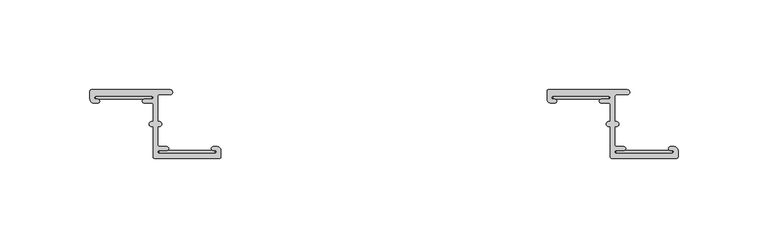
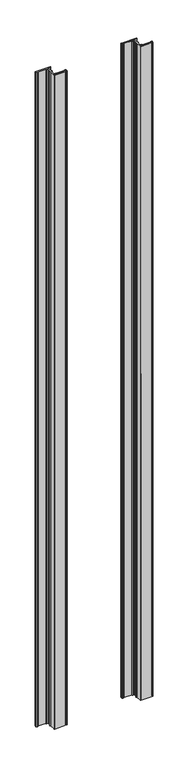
"""IFC4 building model written with IfcOpenShell, lengths in millimetres: fastener geometry."""

from ifc_helpers import new_model, si_unit, frame, origin, origin_with_axes, place, context, project, spatial, polyline, circle_curve, outline, extrude, source, transform, mapped, element, save
from ifc_brep_helpers import plane_surface, cylinder_surface, revolved_surface, advanced_brep


def fastener_dfe876d4(model_context):
    return source(origin(), model_context, "Body", "SolidModel", [
        advanced_brep(
        [(308.102, -3.556, 2032.0), (339.09, -3.556, 2032.0), (339.09, -5.2832, 2032.0), (334.899, -5.2832, 2032.0), (334.899, -7.3152, 2032.0), (339.09, -7.3152, 2032.0), (339.852, -8.0772, 2032.0), (339.852, -17.7601563, 2032.0), (339.0035567, -17.7601563, 2032.0), (339.0035567, -20.4288947, 2032.0), (339.852, -20.4288947, 2032.0), (339.852, -37.3379766, 2032.0), (340.614, -38.0999766, 2032.0), (376.8513242, -38.1, 2032.0), (377.571, -37.3379766, 2032.0), (377.571, -33.7057766, 2032.0), (375.539, -31.6737766, 2032.0), (373.253, -31.6737766, 2032.0), (373.253, -33.7057766, 2032.0), (374.269, -33.7057766, 2032.0), (374.269, -35.4329766, 2032.0), (343.281, -35.4329766, 2032.0), (343.281, -33.7057766, 2032.0), (347.472, -33.7057766, 2032.0), (347.472, -31.6737766, 2032.0), (343.281, -31.6737766, 2032.0), (342.519, -30.9117766, 2032.0), (342.519, -20.4279799, 2032.0), (343.3679007, -20.4279799, 2032.0), (343.3679007, -17.7601563, 2032.0), (342.519, -17.7601563, 2032.0), (342.519, -3.429, 2032.0), (343.281, -2.667, 2032.0), (349.377, -2.667, 2032.0), (349.377, 0.0, 2032.0), (305.562, 0.0, 2032.0), (304.8, -0.762, 2032.0), (304.8, -5.2832, 2032.0), (306.832, -7.3152, 2032.0), (309.118, -7.3152, 2032.0), (309.118, -5.2832, 2032.0), (308.102, -5.2832, 2032.0), (308.102, -3.556, 0.0), (308.102, -5.2832, 0.0), (309.118, -5.2832, 0.0), (309.118, -7.3152, 0.0), (306.832, -7.3152, 0.0), (304.8, -5.2832, 0.0), (304.8, -0.762, 0.0), (305.562, 0.0, 0.0), (349.377, 0.0, 0.0), (349.377, -2.667, 0.0), (343.281, -2.667, 0.0), (342.519, -3.429, 0.0), (342.519, -17.7601563, 0.0), (343.3679007, -17.7601563, 0.0), (343.3679007, -20.4279799, 0.0), (342.519, -20.4279799, 0.0), (342.519, -30.9117766, 0.0), (343.281, -31.6737766, 0.0), (347.472, -31.6737766, 0.0), (347.472, -33.7057766, 0.0), (343.281, -33.7057766, 0.0), (343.281, -35.4329766, 0.0), (374.269, -35.4329766, 0.0), (374.269, -33.7057766, 0.0), (373.253, -33.7057766, 0.0), (373.253, -31.6737766, 0.0), (375.539, -31.6737766, 0.0), (377.571, -33.7057766, 0.0), (377.571, -37.3379766, 0.0), (376.809, -38.0999766, 0.0), (340.7467826, -38.1, 0.0), (339.852, -37.3379766, 0.0), (339.852, -20.4288947, 0.0), (339.0035567, -20.4288947, 0.0), (339.0035567, -17.7601563, 0.0), (339.852, -17.7601563, 0.0), (339.852, -8.0772, 0.0), (339.09, -7.3152, 0.0), (334.899, -7.3152, 0.0), (334.899, -5.2832, 0.0), (339.09, -5.2832, 0.0), (339.09, -3.556, 0.0)],
        [
            (0, 1),
            (1, 2, circle_curve(frame((339.09, -4.4196, 2032.0), z_axis=(0.0, 0.0, -1.0), x_axis=(1.0, 0.0, 0.0)), 0.8636)),
            (2, 3),
            (3, 4, circle_curve(frame((334.899, -6.2992, 2032.0), z_axis=(0.0, 0.0, 1.0), x_axis=(1.0, 0.0, 0.0)), 1.016)),
            (4, 5),
            (5, 6, circle_curve(frame((339.09, -8.0772, 2032.0), z_axis=(0.0, 0.0, -1.0), x_axis=(1.0, 0.0, 0.0)), 0.762)),
            (6, 7),
            (7, 8),
            (8, 9, circle_curve(frame((339.0035567, -19.0945255, 2032.0), z_axis=(0.0, 0.0, 1.0), x_axis=(1.0, 0.0, 0.0)), 1.3343692)),
            (9, 10),
            (10, 11),
            (11, 12, circle_curve(frame((340.614, -37.3379766, 2032.0), z_axis=(0.0, 0.0, 1.0), x_axis=(1.0, 0.0, 0.0)), 0.762)),
            (12, 13),
            (13, 14, circle_curve(frame((376.809, -37.3379766, 2032.0), z_axis=(0.0, 0.0, 1.0), x_axis=(1.0, 0.0, 0.0)), 0.762)),
            (14, 15),
            (15, 16, circle_curve(frame((375.539, -33.7057766, 2032.0), z_axis=(0.0, 0.0, 1.0), x_axis=(1.0, 0.0, 0.0)), 2.032)),
            (16, 17),
            (17, 18, circle_curve(frame((373.253, -32.6897766, 2032.0), z_axis=(0.0, 0.0, 1.0), x_axis=(1.0, 0.0, 0.0)), 1.016)),
            (18, 19),
            (19, 20, circle_curve(frame((374.269, -34.5693766, 2032.0), z_axis=(0.0, 0.0, -1.0), x_axis=(1.0, 0.0, 0.0)), 0.8636)),
            (20, 21),
            (21, 22, circle_curve(frame((343.281, -34.5693766, 2032.0), z_axis=(0.0, 0.0, -1.0), x_axis=(1.0, 0.0, 0.0)), 0.8636)),
            (22, 23),
            (23, 24, circle_curve(frame((347.472, -32.6897766, 2032.0), z_axis=(0.0, 0.0, 1.0), x_axis=(1.0, 0.0, 0.0)), 1.016)),
            (24, 25),
            (25, 26, circle_curve(frame((343.281, -30.9117766, 2032.0), z_axis=(0.0, 0.0, -1.0), x_axis=(1.0, 0.0, 0.0)), 0.762)),
            (26, 27),
            (27, 28),
            (28, 29, circle_curve(frame((343.3679007, -19.0940681, 2032.0), z_axis=(0.0, 0.0, 1.0), x_axis=(1.0, 0.0, 0.0)), 1.3339118)),
            (29, 30),
            (30, 31),
            (31, 32, circle_curve(frame((343.281, -3.429, 2032.0), z_axis=(0.0, 0.0, -1.0), x_axis=(1.0, 0.0, 0.0)), 0.762)),
            (32, 33),
            (33, 34, circle_curve(frame((349.377, -1.3335, 2032.0), z_axis=(0.0, 0.0, 1.0), x_axis=(1.0, 0.0, 0.0)), 1.3335)),
            (34, 35),
            (35, 36, circle_curve(frame((305.562, -0.762, 2032.0), z_axis=(0.0, 0.0, 1.0), x_axis=(1.0, 0.0, 0.0)), 0.762)),
            (36, 37),
            (37, 38, circle_curve(frame((306.832, -5.2832, 2032.0), z_axis=(0.0, 0.0, 1.0), x_axis=(1.0, 0.0, 0.0)), 2.032)),
            (38, 39),
            (39, 40, circle_curve(frame((309.118, -6.2992, 2032.0), z_axis=(0.0, 0.0, 1.0), x_axis=(1.0, 0.0, 0.0)), 1.016)),
            (40, 41),
            (41, 0, circle_curve(frame((308.102, -4.4196, 2032.0), z_axis=(0.0, 0.0, -1.0), x_axis=(1.0, 0.0, 0.0)), 0.8636)),
            (42, 43, circle_curve(frame((308.102, -4.4196, 0.0), z_axis=(0.0, 0.0, 1.0), x_axis=(1.0, 0.0, 0.0)), 0.8636)),
            (43, 44),
            (44, 45, circle_curve(frame((309.118, -6.2992, 0.0), z_axis=(0.0, 0.0, -1.0), x_axis=(1.0, 0.0, 0.0)), 1.016)),
            (45, 46),
            (46, 47, circle_curve(frame((306.832, -5.2832, 0.0), z_axis=(0.0, 0.0, -1.0), x_axis=(1.0, 0.0, 0.0)), 2.032)),
            (47, 48),
            (48, 49, circle_curve(frame((305.562, -0.762, 0.0), z_axis=(0.0, 0.0, -1.0), x_axis=(1.0, 0.0, 0.0)), 0.762)),
            (49, 50),
            (50, 51, circle_curve(frame((349.377, -1.3335, 0.0), z_axis=(0.0, 0.0, -1.0), x_axis=(1.0, 0.0, 0.0)), 1.3335)),
            (51, 52),
            (52, 53, circle_curve(frame((343.281, -3.429, 0.0), z_axis=(0.0, 0.0, 1.0), x_axis=(1.0, 0.0, 0.0)), 0.762)),
            (53, 54),
            (54, 55),
            (55, 56, circle_curve(frame((343.3679007, -19.0940681, 0.0), z_axis=(0.0, 0.0, -1.0), x_axis=(1.0, 0.0, 0.0)), 1.3339118)),
            (56, 57),
            (57, 58),
            (58, 59, circle_curve(frame((343.281, -30.9117766, 0.0), z_axis=(0.0, 0.0, 1.0), x_axis=(1.0, 0.0, 0.0)), 0.762)),
            (59, 60),
            (60, 61, circle_curve(frame((347.472, -32.6897766, 0.0), z_axis=(0.0, 0.0, -1.0), x_axis=(1.0, 0.0, 0.0)), 1.016)),
            (61, 62),
            (62, 63, circle_curve(frame((343.281, -34.5693766, 0.0), z_axis=(0.0, 0.0, 1.0), x_axis=(1.0, 0.0, 0.0)), 0.8636)),
            (63, 64),
            (64, 65, circle_curve(frame((374.269, -34.5693766, 0.0), z_axis=(0.0, 0.0, 1.0), x_axis=(1.0, 0.0, 0.0)), 0.8636)),
            (65, 66),
            (66, 67, circle_curve(frame((373.253, -32.6897766, 0.0), z_axis=(0.0, 0.0, -1.0), x_axis=(1.0, 0.0, 0.0)), 1.016)),
            (67, 68),
            (68, 69, circle_curve(frame((375.539, -33.7057766, 0.0), z_axis=(0.0, 0.0, -1.0), x_axis=(1.0, 0.0, 0.0)), 2.032)),
            (69, 70),
            (70, 71, circle_curve(frame((376.809, -37.3379766, 0.0), z_axis=(0.0, 0.0, -1.0), x_axis=(1.0, 0.0, 0.0)), 0.762)),
            (71, 72),
            (72, 73, circle_curve(frame((340.614, -37.3379766, 0.0), z_axis=(0.0, 0.0, -1.0), x_axis=(1.0, 0.0, 0.0)), 0.762)),
            (73, 74),
            (74, 75),
            (75, 76, circle_curve(frame((339.0035567, -19.0945255, 0.0), z_axis=(0.0, 0.0, -1.0), x_axis=(1.0, 0.0, 0.0)), 1.3343692)),
            (76, 77),
            (77, 78),
            (78, 79, circle_curve(frame((339.09, -8.0772, 0.0), z_axis=(0.0, 0.0, 1.0), x_axis=(1.0, 0.0, 0.0)), 0.762)),
            (79, 80),
            (80, 81, circle_curve(frame((334.899, -6.2992, 0.0), z_axis=(0.0, 0.0, -1.0), x_axis=(1.0, 0.0, 0.0)), 1.016)),
            (81, 82),
            (82, 83, circle_curve(frame((339.09, -4.4196, 0.0), z_axis=(0.0, 0.0, 1.0), x_axis=(1.0, 0.0, 0.0)), 0.8636)),
            (83, 42),
            (0, 42),
            (83, 1),
            (82, 2),
            (81, 3),
            (80, 4),
            (79, 5),
            (78, 6),
            (77, 7),
            (76, 8),
            (75, 9),
            (74, 10),
            (73, 11),
            (72, 12),
            (71, 13),
            (70, 14),
            (69, 15),
            (68, 16),
            (67, 17),
            (66, 18),
            (65, 19),
            (64, 20),
            (63, 21),
            (62, 22),
            (61, 23),
            (60, 24),
            (59, 25),
            (58, 26),
            (57, 27),
            (56, 28),
            (55, 29),
            (54, 30),
            (53, 31),
            (52, 32),
            (51, 33),
            (50, 34),
            (49, 35),
            (48, 36),
            (47, 37),
            (46, 38),
            (45, 39),
            (44, 40),
            (43, 41),
        ],
        [
            plane_surface(frame((339.09, -3.556, 2032.0), z_axis=(0.0, 0.0, 1.0), x_axis=(1.0, 0.0, 0.0))),
            plane_surface(frame((339.09, -3.556, 0.0), z_axis=(0.0, 0.0, -1.0), x_axis=(-1.0, 0.0, 0.0))),
            plane_surface(frame((308.102, -3.556, 2032.0), z_axis=(0.0, -1.0, 0.0), x_axis=(0.0, 0.0, -1.0))),
            revolved_surface(polyline([(339.9536, -4.4196, 0.0), (339.9536, -4.4196, 2032.0)]), (339.09, -4.4196, 0.0), (0.0, 0.0, -1.0)),
            plane_surface(frame((339.09, -5.2832, 2032.0), z_axis=(0.0, 1.0, 0.0), x_axis=(0.0, 0.0, -1.0))),
            cylinder_surface(frame((334.899, -6.2992, 0.0), z_axis=(0.0, 0.0, 1.0), x_axis=(1.0, 0.0, 0.0)), 1.016),
            plane_surface(frame((334.899, -7.3152, 2032.0), z_axis=(0.0, -1.0, 0.0), x_axis=(0.0, 0.0, -1.0))),
            revolved_surface(polyline([(339.852, -8.0772, 0.0), (339.852, -8.0772, 2032.0)]), (339.09, -8.0772, 0.0), (0.0, 0.0, -1.0)),
            plane_surface(frame((339.852, -8.0772, 2032.0), z_axis=(-1.0, 0.0, 0.0), x_axis=(0.0, 0.0, -1.0))),
            plane_surface(frame((339.852, -17.7601563, 2032.0), z_axis=(0.0, 1.0, 0.0), x_axis=(0.0, 0.0, -1.0))),
            cylinder_surface(frame((339.0035567, -19.0945255, 0.0), z_axis=(0.0, 0.0, 1.0), x_axis=(1.0, 0.0, 0.0)), 1.3343692),
            plane_surface(frame((339.0035567, -20.4288947, 2032.0), z_axis=(0.0, -1.0, 0.0), x_axis=(0.0, 0.0, -1.0))),
            plane_surface(frame((339.852, -20.4288947, 2032.0), z_axis=(-1.0, 0.0, 0.0), x_axis=(0.0, 0.0, -1.0))),
            cylinder_surface(frame((340.614, -37.3379766, 0.0), z_axis=(0.0, 0.0, 1.0), x_axis=(1.0, 0.0, 0.0)), 0.762),
            plane_surface(frame((340.7467826, -38.1, 2032.0), z_axis=(0.0, -1.0, 0.0), x_axis=(0.0, 0.0, -1.0))),
            cylinder_surface(frame((376.809, -37.3379766, 0.0), z_axis=(0.0, 0.0, 1.0), x_axis=(1.0, 0.0, 0.0)), 0.762),
            plane_surface(frame((377.571, -37.3379766, 2032.0), z_axis=(1.0, 1.094695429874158e-12, 0.0), x_axis=(0.0, 0.0, -1.0))),
            cylinder_surface(frame((375.539, -33.7057766, 0.0), z_axis=(0.0, 0.0, 1.0), x_axis=(1.0, 0.0, 0.0)), 2.032),
            plane_surface(frame((375.539, -31.6737766, 2032.0), z_axis=(0.0, 1.0, 0.0), x_axis=(0.0, 0.0, -1.0))),
            cylinder_surface(frame((373.253, -32.6897766, 0.0), z_axis=(0.0, 0.0, 1.0), x_axis=(1.0, 0.0, 0.0)), 1.016),
            plane_surface(frame((373.253, -33.7057766, 2032.0), z_axis=(0.0, -1.0, 0.0), x_axis=(0.0, 0.0, -1.0))),
            revolved_surface(polyline([(375.1326, -34.5693766, 0.0), (375.1326, -34.5693766, 2032.0)]), (374.269, -34.5693766, 0.0), (0.0, 0.0, -1.0)),
            plane_surface(frame((374.269, -35.4329766, 2032.0), z_axis=(0.0, 1.0, 0.0), x_axis=(0.0, 0.0, -1.0))),
            revolved_surface(polyline([(344.1446, -34.5693766, 0.0), (344.1446, -34.5693766, 2032.0)]), (343.281, -34.5693766, 0.0), (0.0, 0.0, -1.0)),
            plane_surface(frame((343.281, -33.7057766, 2032.0), z_axis=(0.0, -1.0, 0.0), x_axis=(0.0, 0.0, -1.0))),
            cylinder_surface(frame((347.472, -32.6897766, 0.0), z_axis=(0.0, 0.0, 1.0), x_axis=(1.0, 0.0, 0.0)), 1.016),
            plane_surface(frame((347.472, -31.6737766, 2032.0), z_axis=(0.0, 1.0, 0.0), x_axis=(0.0, 0.0, -1.0))),
            revolved_surface(polyline([(344.043, -30.9117766, 0.0), (344.043, -30.9117766, 2032.0)]), (343.281, -30.9117766, 0.0), (0.0, 0.0, -1.0)),
            plane_surface(frame((342.519, -30.9117766, 2032.0), z_axis=(1.0, 0.0, 0.0), x_axis=(0.0, 0.0, -1.0))),
            plane_surface(frame((342.519, -20.4279799, 2032.0), z_axis=(0.0, -1.0, 0.0), x_axis=(0.0, 0.0, -1.0))),
            cylinder_surface(frame((343.3679007, -19.0940681, 0.0), z_axis=(0.0, 0.0, 1.0), x_axis=(1.0, 0.0, 0.0)), 1.3339118),
            plane_surface(frame((343.3679007, -17.7601563, 2032.0), z_axis=(0.0, 1.0, 0.0), x_axis=(0.0, 0.0, -1.0))),
            plane_surface(frame((342.519, -17.7601563, 2032.0), z_axis=(1.0, 0.0, 0.0), x_axis=(0.0, 0.0, -1.0))),
            revolved_surface(polyline([(344.043, -3.429, 0.0), (344.043, -3.429, 2032.0)]), (343.281, -3.429, 0.0), (0.0, 0.0, -1.0)),
            plane_surface(frame((343.281, -2.667, 2032.0), z_axis=(0.0, -1.0, 0.0), x_axis=(0.0, 0.0, -1.0))),
            cylinder_surface(frame((349.377, -1.3335, 0.0), z_axis=(0.0, 0.0, 1.0), x_axis=(1.0, 0.0, 0.0)), 1.3335),
            plane_surface(frame((349.377, 0.0, 2032.0), z_axis=(0.0, 1.0, 0.0), x_axis=(0.0, 0.0, -1.0))),
            cylinder_surface(frame((305.562, -0.762, 0.0), z_axis=(0.0, 0.0, 1.0), x_axis=(1.0, 0.0, 0.0)), 0.762),
            plane_surface(frame((304.8, -0.762, 2032.0), z_axis=(-1.0, 1.1909948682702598e-12, 0.0), x_axis=(0.0, 0.0, -1.0))),
            cylinder_surface(frame((306.832, -5.2832, 0.0), z_axis=(0.0, 0.0, 1.0), x_axis=(1.0, 0.0, 0.0)), 2.032),
            plane_surface(frame((306.832, -7.3152, 2032.0), z_axis=(0.0, -1.0, 0.0), x_axis=(0.0, 0.0, -1.0))),
            cylinder_surface(frame((309.118, -6.2992, 0.0), z_axis=(0.0, 0.0, 1.0), x_axis=(1.0, 0.0, 0.0)), 1.016),
            plane_surface(frame((309.118, -5.2832, 2032.0), z_axis=(0.0, 1.0, 0.0), x_axis=(0.0, 0.0, -1.0))),
            revolved_surface(polyline([(308.9656, -4.4196, 0.0), (308.9656, -4.4196, 2032.0)]), (308.102, -4.4196, 0.0), (0.0, 0.0, -1.0)),
        ],
        [
            (0, [[1, 2, 3, 4, 5, 6, 7, 8, 9, 10, 11, 12, 13, 14, 15, 16, 17, 18, 19, 20, 21, 22, 23, 24, 25, 26, 27, 28, 29, 30, 31, 32, 33, 34, 35, 36, 37, 38, 39, 40, 41, 42]]),
            (1, [[43, 44, 45, 46, 47, 48, 49, 50, 51, 52, 53, 54, 55, 56, 57, 58, 59, 60, 61, 62, 63, 64, 65, 66, 67, 68, 69, 70, 71, 72, 73, 74, 75, 76, 77, 78, 79, 80, 81, 82, 83, 84]]),
            (2, [[-1, 85, -84, 86]]),
            (3, [[-2, -86, -83, 87]]),
            (4, [[-3, -87, -82, 88]]),
            (5, [[-4, -88, -81, 89]]),
            (6, [[-5, -89, -80, 90]]),
            (7, [[-6, -90, -79, 91]]),
            (8, [[-7, -91, -78, 92]]),
            (9, [[-8, -92, -77, 93]]),
            (10, [[-9, -93, -76, 94]]),
            (11, [[-10, -94, -75, 95]]),
            (12, [[-11, -95, -74, 96]]),
            (13, [[-12, -96, -73, 97]]),
            (14, [[-13, -97, -72, 98]]),
            (15, [[-14, -98, -71, 99]]),
            (16, [[-15, -99, -70, 100]]),
            (17, [[-16, -100, -69, 101]]),
            (18, [[-17, -101, -68, 102]]),
            (19, [[-18, -102, -67, 103]]),
            (20, [[-19, -103, -66, 104]]),
            (21, [[-20, -104, -65, 105]]),
            (22, [[-21, -105, -64, 106]]),
            (23, [[-22, -106, -63, 107]]),
            (24, [[-23, -107, -62, 108]]),
            (25, [[-24, -108, -61, 109]]),
            (26, [[-25, -109, -60, 110]]),
            (27, [[-26, -110, -59, 111]]),
            (28, [[-27, -111, -58, 112]]),
            (29, [[-28, -112, -57, 113]]),
            (30, [[-29, -113, -56, 114]]),
            (31, [[-30, -114, -55, 115]]),
            (32, [[-31, -115, -54, 116]]),
            (33, [[-32, -116, -53, 117]]),
            (34, [[-33, -117, -52, 118]]),
            (35, [[-34, -118, -51, 119]]),
            (36, [[-35, -119, -50, 120]]),
            (37, [[-36, -120, -49, 121]]),
            (38, [[-37, -121, -48, 122]]),
            (39, [[-38, -122, -47, 123]]),
            (40, [[-39, -123, -46, 124]]),
            (41, [[-40, -124, -45, 125]]),
            (42, [[-41, -125, -44, 126]]),
            (43, [[-42, -126, -43, -85]]),
        ],
    ),
        extrude(outline(polyline([(339.09, -3.556), (339.09, -5.2832), (308.102, -5.2832), (308.102, -3.556), (339.09, -3.556)])), origin_with_axes(), (0.0, 0.0, 1.0), 2032.0),
        extrude(outline(polyline([(374.269, -33.7057766), (374.269, -35.4329766), (343.281, -35.4329766), (343.281, -33.7057766), (374.269, -33.7057766)])), origin_with_axes(), (0.0, 0.0, 1.0), 2032.0),
        advanced_brep(
        [(54.102, -3.556, 2032.0), (85.09, -3.556, 2032.0), (85.09, -5.2832, 2032.0), (80.899, -5.2832, 2032.0), (80.899, -7.3152, 2032.0), (85.09, -7.3152, 2032.0), (85.852, -8.0772, 2032.0), (85.852, -17.7601563, 2032.0), (85.0035567, -17.7601563, 2032.0), (85.0035567, -20.4288947, 2032.0), (85.852, -20.4288947, 2032.0), (85.852, -37.3379766, 2032.0), (86.614, -38.0999766, 2032.0), (122.8513242, -38.1, 2032.0), (123.571, -37.3379766, 2032.0), (123.571, -33.7057766, 2032.0), (121.539, -31.6737766, 2032.0), (119.253, -31.6737766, 2032.0), (119.253, -33.7057766, 2032.0), (120.269, -33.7057766, 2032.0), (120.269, -35.4329766, 2032.0), (89.281, -35.4329766, 2032.0), (89.281, -33.7057766, 2032.0), (93.472, -33.7057766, 2032.0), (93.472, -31.6737766, 2032.0), (89.281, -31.6737766, 2032.0), (88.519, -30.9117766, 2032.0), (88.519, -20.4279799, 2032.0), (89.3679007, -20.4279799, 2032.0), (89.3679007, -17.7601563, 2032.0), (88.519, -17.7601563, 2032.0), (88.519, -3.429, 2032.0), (89.281, -2.667, 2032.0), (95.377, -2.667, 2032.0), (95.377, 0.0, 2032.0), (51.562, 0.0, 2032.0), (50.8, -0.762, 2032.0), (50.8, -5.2832, 2032.0), (52.832, -7.3152, 2032.0), (55.118, -7.3152, 2032.0), (55.118, -5.2832, 2032.0), (54.102, -5.2832, 2032.0), (54.102, -3.556, 0.0), (54.102, -5.2832, 0.0), (55.118, -5.2832, 0.0), (55.118, -7.3152, 0.0), (52.832, -7.3152, 0.0), (50.8, -5.2832, 0.0), (50.8, -0.762, 0.0), (51.562, 0.0, 0.0), (95.377, 0.0, 0.0), (95.377, -2.667, 0.0), (89.281, -2.667, 0.0), (88.519, -3.429, 0.0), (88.519, -17.7601563, 0.0), (89.3679007, -17.7601563, 0.0), (89.3679007, -20.4279799, 0.0), (88.519, -20.4279799, 0.0), (88.519, -30.9117766, 0.0), (89.281, -31.6737766, 0.0), (93.472, -31.6737766, 0.0), (93.472, -33.7057766, 0.0), (89.281, -33.7057766, 0.0), (89.281, -35.4329766, 0.0), (120.269, -35.4329766, 0.0), (120.269, -33.7057766, 0.0), (119.253, -33.7057766, 0.0), (119.253, -31.6737766, 0.0), (121.539, -31.6737766, 0.0), (123.571, -33.7057766, 0.0), (123.571, -37.3379766, 0.0), (122.809, -38.0999766, 0.0), (86.7467826, -38.1, 0.0), (85.852, -37.3379766, 0.0), (85.852, -20.4288947, 0.0), (85.0035567, -20.4288947, 0.0), (85.0035567, -17.7601563, 0.0), (85.852, -17.7601563, 0.0), (85.852, -8.0772, 0.0), (85.09, -7.3152, 0.0), (80.899, -7.3152, 0.0), (80.899, -5.2832, 0.0), (85.09, -5.2832, 0.0), (85.09, -3.556, 0.0)],
        [
            (0, 1),
            (1, 2, circle_curve(frame((85.09, -4.4196, 2032.0), z_axis=(0.0, 0.0, -1.0), x_axis=(1.0, 0.0, 0.0)), 0.8636)),
            (2, 3),
            (3, 4, circle_curve(frame((80.899, -6.2992, 2032.0), z_axis=(0.0, 0.0, 1.0), x_axis=(1.0, 0.0, 0.0)), 1.016)),
            (4, 5),
            (5, 6, circle_curve(frame((85.09, -8.0772, 2032.0), z_axis=(0.0, 0.0, -1.0), x_axis=(1.0, 0.0, 0.0)), 0.762)),
            (6, 7),
            (7, 8),
            (8, 9, circle_curve(frame((85.0035567, -19.0945255, 2032.0), z_axis=(0.0, 0.0, 1.0), x_axis=(1.0, 0.0, 0.0)), 1.3343692)),
            (9, 10),
            (10, 11),
            (11, 12, circle_curve(frame((86.614, -37.3379766, 2032.0), z_axis=(0.0, 0.0, 1.0), x_axis=(1.0, 0.0, 0.0)), 0.762)),
            (12, 13),
            (13, 14, circle_curve(frame((122.809, -37.3379766, 2032.0), z_axis=(0.0, 0.0, 1.0), x_axis=(1.0, 0.0, 0.0)), 0.762)),
            (14, 15),
            (15, 16, circle_curve(frame((121.539, -33.7057766, 2032.0), z_axis=(0.0, 0.0, 1.0), x_axis=(1.0, 0.0, 0.0)), 2.032)),
            (16, 17),
            (17, 18, circle_curve(frame((119.253, -32.6897766, 2032.0), z_axis=(0.0, 0.0, 1.0), x_axis=(1.0, 0.0, 0.0)), 1.016)),
            (18, 19),
            (19, 20, circle_curve(frame((120.269, -34.5693766, 2032.0), z_axis=(0.0, 0.0, -1.0), x_axis=(1.0, 0.0, 0.0)), 0.8636)),
            (20, 21),
            (21, 22, circle_curve(frame((89.281, -34.5693766, 2032.0), z_axis=(0.0, 0.0, -1.0), x_axis=(1.0, 0.0, 0.0)), 0.8636)),
            (22, 23),
            (23, 24, circle_curve(frame((93.472, -32.6897766, 2032.0), z_axis=(0.0, 0.0, 1.0), x_axis=(1.0, 0.0, 0.0)), 1.016)),
            (24, 25),
            (25, 26, circle_curve(frame((89.281, -30.9117766, 2032.0), z_axis=(0.0, 0.0, -1.0), x_axis=(1.0, 0.0, 0.0)), 0.762)),
            (26, 27),
            (27, 28),
            (28, 29, circle_curve(frame((89.3679007, -19.0940681, 2032.0), z_axis=(0.0, 0.0, 1.0), x_axis=(1.0, 0.0, 0.0)), 1.3339118)),
            (29, 30),
            (30, 31),
            (31, 32, circle_curve(frame((89.281, -3.429, 2032.0), z_axis=(0.0, 0.0, -1.0), x_axis=(1.0, 0.0, 0.0)), 0.762)),
            (32, 33),
            (33, 34, circle_curve(frame((95.377, -1.3335, 2032.0), z_axis=(0.0, 0.0, 1.0), x_axis=(1.0, 0.0, 0.0)), 1.3335)),
            (34, 35),
            (35, 36, circle_curve(frame((51.562, -0.762, 2032.0), z_axis=(0.0, 0.0, 1.0), x_axis=(1.0, 0.0, 0.0)), 0.762)),
            (36, 37),
            (37, 38, circle_curve(frame((52.832, -5.2832, 2032.0), z_axis=(0.0, 0.0, 1.0), x_axis=(1.0, 0.0, 0.0)), 2.032)),
            (38, 39),
            (39, 40, circle_curve(frame((55.118, -6.2992, 2032.0), z_axis=(0.0, 0.0, 1.0), x_axis=(1.0, 0.0, 0.0)), 1.016)),
            (40, 41),
            (41, 0, circle_curve(frame((54.102, -4.4196, 2032.0), z_axis=(0.0, 0.0, -1.0), x_axis=(1.0, 0.0, 0.0)), 0.8636)),
            (42, 43, circle_curve(frame((54.102, -4.4196, 0.0), z_axis=(0.0, 0.0, 1.0), x_axis=(1.0, 0.0, 0.0)), 0.8636)),
            (43, 44),
            (44, 45, circle_curve(frame((55.118, -6.2992, 0.0), z_axis=(0.0, 0.0, -1.0), x_axis=(1.0, 0.0, 0.0)), 1.016)),
            (45, 46),
            (46, 47, circle_curve(frame((52.832, -5.2832, 0.0), z_axis=(0.0, 0.0, -1.0), x_axis=(1.0, 0.0, 0.0)), 2.032)),
            (47, 48),
            (48, 49, circle_curve(frame((51.562, -0.762, 0.0), z_axis=(0.0, 0.0, -1.0), x_axis=(1.0, 0.0, 0.0)), 0.762)),
            (49, 50),
            (50, 51, circle_curve(frame((95.377, -1.3335, 0.0), z_axis=(0.0, 0.0, -1.0), x_axis=(1.0, 0.0, 0.0)), 1.3335)),
            (51, 52),
            (52, 53, circle_curve(frame((89.281, -3.429, 0.0), z_axis=(0.0, 0.0, 1.0), x_axis=(1.0, 0.0, 0.0)), 0.762)),
            (53, 54),
            (54, 55),
            (55, 56, circle_curve(frame((89.3679007, -19.0940681, 0.0), z_axis=(0.0, 0.0, -1.0), x_axis=(1.0, 0.0, 0.0)), 1.3339118)),
            (56, 57),
            (57, 58),
            (58, 59, circle_curve(frame((89.281, -30.9117766, 0.0), z_axis=(0.0, 0.0, 1.0), x_axis=(1.0, 0.0, 0.0)), 0.762)),
            (59, 60),
            (60, 61, circle_curve(frame((93.472, -32.6897766, 0.0), z_axis=(0.0, 0.0, -1.0), x_axis=(1.0, 0.0, 0.0)), 1.016)),
            (61, 62),
            (62, 63, circle_curve(frame((89.281, -34.5693766, 0.0), z_axis=(0.0, 0.0, 1.0), x_axis=(1.0, 0.0, 0.0)), 0.8636)),
            (63, 64),
            (64, 65, circle_curve(frame((120.269, -34.5693766, 0.0), z_axis=(0.0, 0.0, 1.0), x_axis=(1.0, 0.0, 0.0)), 0.8636)),
            (65, 66),
            (66, 67, circle_curve(frame((119.253, -32.6897766, 0.0), z_axis=(0.0, 0.0, -1.0), x_axis=(1.0, 0.0, 0.0)), 1.016)),
            (67, 68),
            (68, 69, circle_curve(frame((121.539, -33.7057766, 0.0), z_axis=(0.0, 0.0, -1.0), x_axis=(1.0, 0.0, 0.0)), 2.032)),
            (69, 70),
            (70, 71, circle_curve(frame((122.809, -37.3379766, 0.0), z_axis=(0.0, 0.0, -1.0), x_axis=(1.0, 0.0, 0.0)), 0.762)),
            (71, 72),
            (72, 73, circle_curve(frame((86.614, -37.3379766, 0.0), z_axis=(0.0, 0.0, -1.0), x_axis=(1.0, 0.0, 0.0)), 0.762)),
            (73, 74),
            (74, 75),
            (75, 76, circle_curve(frame((85.0035567, -19.0945255, 0.0), z_axis=(0.0, 0.0, -1.0), x_axis=(1.0, 0.0, 0.0)), 1.3343692)),
            (76, 77),
            (77, 78),
            (78, 79, circle_curve(frame((85.09, -8.0772, 0.0), z_axis=(0.0, 0.0, 1.0), x_axis=(1.0, 0.0, 0.0)), 0.762)),
            (79, 80),
            (80, 81, circle_curve(frame((80.899, -6.2992, 0.0), z_axis=(0.0, 0.0, -1.0), x_axis=(1.0, 0.0, 0.0)), 1.016)),
            (81, 82),
            (82, 83, circle_curve(frame((85.09, -4.4196, 0.0), z_axis=(0.0, 0.0, 1.0), x_axis=(1.0, 0.0, 0.0)), 0.8636)),
            (83, 42),
            (0, 42),
            (83, 1),
            (82, 2),
            (81, 3),
            (80, 4),
            (79, 5),
            (78, 6),
            (77, 7),
            (76, 8),
            (75, 9),
            (74, 10),
            (73, 11),
            (72, 12),
            (71, 13),
            (70, 14),
            (69, 15),
            (68, 16),
            (67, 17),
            (66, 18),
            (65, 19),
            (64, 20),
            (63, 21),
            (62, 22),
            (61, 23),
            (60, 24),
            (59, 25),
            (58, 26),
            (57, 27),
            (56, 28),
            (55, 29),
            (54, 30),
            (53, 31),
            (52, 32),
            (51, 33),
            (50, 34),
            (49, 35),
            (48, 36),
            (47, 37),
            (46, 38),
            (45, 39),
            (44, 40),
            (43, 41),
        ],
        [
            plane_surface(frame((85.09, -3.556, 2032.0), z_axis=(0.0, 0.0, 1.0), x_axis=(1.0, 0.0, 0.0))),
            plane_surface(frame((85.09, -3.556, 0.0), z_axis=(0.0, 0.0, -1.0), x_axis=(-1.0, 0.0, 0.0))),
            plane_surface(frame((54.102, -3.556, 2032.0), z_axis=(0.0, -1.0, 0.0), x_axis=(0.0, 0.0, -1.0))),
            revolved_surface(polyline([(85.95360000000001, -4.4196, 0.0), (85.95360000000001, -4.4196, 2032.0)]), (85.09, -4.4196, 0.0), (0.0, 0.0, -1.0)),
            plane_surface(frame((85.09, -5.2832, 2032.0), z_axis=(0.0, 1.0, 0.0), x_axis=(0.0, 0.0, -1.0))),
            cylinder_surface(frame((80.899, -6.2992, 0.0), z_axis=(0.0, 0.0, 1.0), x_axis=(1.0, 0.0, 0.0)), 1.016),
            plane_surface(frame((80.899, -7.3152, 2032.0), z_axis=(0.0, -1.0, 0.0), x_axis=(0.0, 0.0, -1.0))),
            revolved_surface(polyline([(85.852, -8.0772, 0.0), (85.852, -8.0772, 2032.0)]), (85.09, -8.0772, 0.0), (0.0, 0.0, -1.0)),
            plane_surface(frame((85.852, -8.0772, 2032.0), z_axis=(-1.0, 0.0, 0.0), x_axis=(0.0, 0.0, -1.0))),
            plane_surface(frame((85.852, -17.7601563, 2032.0), z_axis=(0.0, 1.0, 0.0), x_axis=(0.0, 0.0, -1.0))),
            cylinder_surface(frame((85.0035567, -19.0945255, 0.0), z_axis=(0.0, 0.0, 1.0), x_axis=(1.0, 0.0, 0.0)), 1.3343692),
            plane_surface(frame((85.0035567, -20.4288947, 2032.0), z_axis=(0.0, -1.0, 0.0), x_axis=(0.0, 0.0, -1.0))),
            plane_surface(frame((85.852, -20.4288947, 2032.0), z_axis=(-1.0, 0.0, 0.0), x_axis=(0.0, 0.0, -1.0))),
            cylinder_surface(frame((86.614, -37.3379766, 0.0), z_axis=(0.0, 0.0, 1.0), x_axis=(1.0, 0.0, 0.0)), 0.762),
            plane_surface(frame((86.7467826, -38.1, 2032.0), z_axis=(0.0, -1.0, 0.0), x_axis=(0.0, 0.0, -1.0))),
            cylinder_surface(frame((122.809, -37.3379766, 0.0), z_axis=(0.0, 0.0, 1.0), x_axis=(1.0, 0.0, 0.0)), 0.762),
            plane_surface(frame((123.571, -37.3379766, 2032.0), z_axis=(1.0, 1.094695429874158e-12, 0.0), x_axis=(0.0, 0.0, -1.0))),
            cylinder_surface(frame((121.539, -33.7057766, 0.0), z_axis=(0.0, 0.0, 1.0), x_axis=(1.0, 0.0, 0.0)), 2.032),
            plane_surface(frame((121.539, -31.6737766, 2032.0), z_axis=(0.0, 1.0, 0.0), x_axis=(0.0, 0.0, -1.0))),
            cylinder_surface(frame((119.253, -32.6897766, 0.0), z_axis=(0.0, 0.0, 1.0), x_axis=(1.0, 0.0, 0.0)), 1.016),
            plane_surface(frame((119.253, -33.7057766, 2032.0), z_axis=(0.0, -1.0, 0.0), x_axis=(0.0, 0.0, -1.0))),
            revolved_surface(polyline([(121.13260000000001, -34.5693766, 0.0), (121.13260000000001, -34.5693766, 2032.0)]), (120.269, -34.5693766, 0.0), (0.0, 0.0, -1.0)),
            plane_surface(frame((120.269, -35.4329766, 2032.0), z_axis=(0.0, 1.0, 0.0), x_axis=(0.0, 0.0, -1.0))),
            revolved_surface(polyline([(90.14460000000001, -34.5693766, 0.0), (90.14460000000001, -34.5693766, 2032.0)]), (89.281, -34.5693766, 0.0), (0.0, 0.0, -1.0)),
            plane_surface(frame((89.281, -33.7057766, 2032.0), z_axis=(0.0, -1.0, 0.0), x_axis=(0.0, 0.0, -1.0))),
            cylinder_surface(frame((93.472, -32.6897766, 0.0), z_axis=(0.0, 0.0, 1.0), x_axis=(1.0, 0.0, 0.0)), 1.016),
            plane_surface(frame((93.472, -31.6737766, 2032.0), z_axis=(0.0, 1.0, 0.0), x_axis=(0.0, 0.0, -1.0))),
            revolved_surface(polyline([(90.043, -30.9117766, 0.0), (90.043, -30.9117766, 2032.0)]), (89.281, -30.9117766, 0.0), (0.0, 0.0, -1.0)),
            plane_surface(frame((88.519, -30.9117766, 2032.0), z_axis=(1.0, 0.0, 0.0), x_axis=(0.0, 0.0, -1.0))),
            plane_surface(frame((88.519, -20.4279799, 2032.0), z_axis=(0.0, -1.0, 0.0), x_axis=(0.0, 0.0, -1.0))),
            cylinder_surface(frame((89.3679007, -19.0940681, 0.0), z_axis=(0.0, 0.0, 1.0), x_axis=(1.0, 0.0, 0.0)), 1.3339118),
            plane_surface(frame((89.3679007, -17.7601563, 2032.0), z_axis=(0.0, 1.0, 0.0), x_axis=(0.0, 0.0, -1.0))),
            plane_surface(frame((88.519, -17.7601563, 2032.0), z_axis=(1.0, 0.0, 0.0), x_axis=(0.0, 0.0, -1.0))),
            revolved_surface(polyline([(90.043, -3.429, 0.0), (90.043, -3.429, 2032.0)]), (89.281, -3.429, 0.0), (0.0, 0.0, -1.0)),
            plane_surface(frame((89.281, -2.667, 2032.0), z_axis=(0.0, -1.0, 0.0), x_axis=(0.0, 0.0, -1.0))),
            cylinder_surface(frame((95.377, -1.3335, 0.0), z_axis=(0.0, 0.0, 1.0), x_axis=(1.0, 0.0, 0.0)), 1.3335),
            plane_surface(frame((95.377, 0.0, 2032.0), z_axis=(0.0, 1.0, 0.0), x_axis=(0.0, 0.0, -1.0))),
            cylinder_surface(frame((51.562, -0.762, 0.0), z_axis=(0.0, 0.0, 1.0), x_axis=(1.0, 0.0, 0.0)), 0.762),
            plane_surface(frame((50.8, -0.762, 2032.0), z_axis=(-1.0, 1.1909948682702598e-12, 0.0), x_axis=(0.0, 0.0, -1.0))),
            cylinder_surface(frame((52.832, -5.2832, 0.0), z_axis=(0.0, 0.0, 1.0), x_axis=(1.0, 0.0, 0.0)), 2.032),
            plane_surface(frame((52.832, -7.3152, 2032.0), z_axis=(0.0, -1.0, 0.0), x_axis=(0.0, 0.0, -1.0))),
            cylinder_surface(frame((55.118, -6.2992, 0.0), z_axis=(0.0, 0.0, 1.0), x_axis=(1.0, 0.0, 0.0)), 1.016),
            plane_surface(frame((55.118, -5.2832, 2032.0), z_axis=(0.0, 1.0, 0.0), x_axis=(0.0, 0.0, -1.0))),
            revolved_surface(polyline([(54.965599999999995, -4.4196, 0.0), (54.965599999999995, -4.4196, 2032.0)]), (54.102, -4.4196, 0.0), (0.0, 0.0, -1.0)),
        ],
        [
            (0, [[1, 2, 3, 4, 5, 6, 7, 8, 9, 10, 11, 12, 13, 14, 15, 16, 17, 18, 19, 20, 21, 22, 23, 24, 25, 26, 27, 28, 29, 30, 31, 32, 33, 34, 35, 36, 37, 38, 39, 40, 41, 42]]),
            (1, [[43, 44, 45, 46, 47, 48, 49, 50, 51, 52, 53, 54, 55, 56, 57, 58, 59, 60, 61, 62, 63, 64, 65, 66, 67, 68, 69, 70, 71, 72, 73, 74, 75, 76, 77, 78, 79, 80, 81, 82, 83, 84]]),
            (2, [[-1, 85, -84, 86]]),
            (3, [[-2, -86, -83, 87]]),
            (4, [[-3, -87, -82, 88]]),
            (5, [[-4, -88, -81, 89]]),
            (6, [[-5, -89, -80, 90]]),
            (7, [[-6, -90, -79, 91]]),
            (8, [[-7, -91, -78, 92]]),
            (9, [[-8, -92, -77, 93]]),
            (10, [[-9, -93, -76, 94]]),
            (11, [[-10, -94, -75, 95]]),
            (12, [[-11, -95, -74, 96]]),
            (13, [[-12, -96, -73, 97]]),
            (14, [[-13, -97, -72, 98]]),
            (15, [[-14, -98, -71, 99]]),
            (16, [[-15, -99, -70, 100]]),
            (17, [[-16, -100, -69, 101]]),
            (18, [[-17, -101, -68, 102]]),
            (19, [[-18, -102, -67, 103]]),
            (20, [[-19, -103, -66, 104]]),
            (21, [[-20, -104, -65, 105]]),
            (22, [[-21, -105, -64, 106]]),
            (23, [[-22, -106, -63, 107]]),
            (24, [[-23, -107, -62, 108]]),
            (25, [[-24, -108, -61, 109]]),
            (26, [[-25, -109, -60, 110]]),
            (27, [[-26, -110, -59, 111]]),
            (28, [[-27, -111, -58, 112]]),
            (29, [[-28, -112, -57, 113]]),
            (30, [[-29, -113, -56, 114]]),
            (31, [[-30, -114, -55, 115]]),
            (32, [[-31, -115, -54, 116]]),
            (33, [[-32, -116, -53, 117]]),
            (34, [[-33, -117, -52, 118]]),
            (35, [[-34, -118, -51, 119]]),
            (36, [[-35, -119, -50, 120]]),
            (37, [[-36, -120, -49, 121]]),
            (38, [[-37, -121, -48, 122]]),
            (39, [[-38, -122, -47, 123]]),
            (40, [[-39, -123, -46, 124]]),
            (41, [[-40, -124, -45, 125]]),
            (42, [[-41, -125, -44, 126]]),
            (43, [[-42, -126, -43, -85]]),
        ],
    ),
        extrude(outline(polyline([(85.09, -3.556), (85.09, -5.2832), (54.102, -5.2832), (54.102, -3.556), (85.09, -3.556)])), origin_with_axes(), (0.0, 0.0, 1.0), 2032.0),
        extrude(outline(polyline([(120.269, -33.7057766), (120.269, -35.4329766), (89.281, -35.4329766), (89.281, -33.7057766), (120.269, -33.7057766)])), origin_with_axes(), (0.0, 0.0, 1.0), 2032.0),
    ])


if __name__ == "__main__":
    model = new_model("IFC4")
    model_context = context("Model", 3, world=origin())
    ifc_project = project(units=[si_unit("LENGTHUNIT", "METRE", prefix="MILLI")], contexts=[model_context])
    site = spatial("IfcSite", under=ifc_project)
    building = spatial("IfcBuilding", under=site)
    placement = place(None, origin())
    fastener_shape = fastener_dfe876d4(model_context)
    element("IfcFastener", 1, ObjectType="Structural-Supporting-Components_Advanced-Architectural-Products_SMARTci_(On Closed Framing) : SMARTci (On Closed Framing) 1.5\"", at=placement, inside=building, context=model_context, shape_type="MappedRepresentation", body=[
        mapped(fastener_shape, transform((0.0, 0.0, 0.0), x_axis=(1.0, 0.0, 0.0), y_axis=(0.0, 1.0, 0.0), z_axis=(0.0, 0.0, 1.0))),
    ])
    save(model, "model.ifc")
